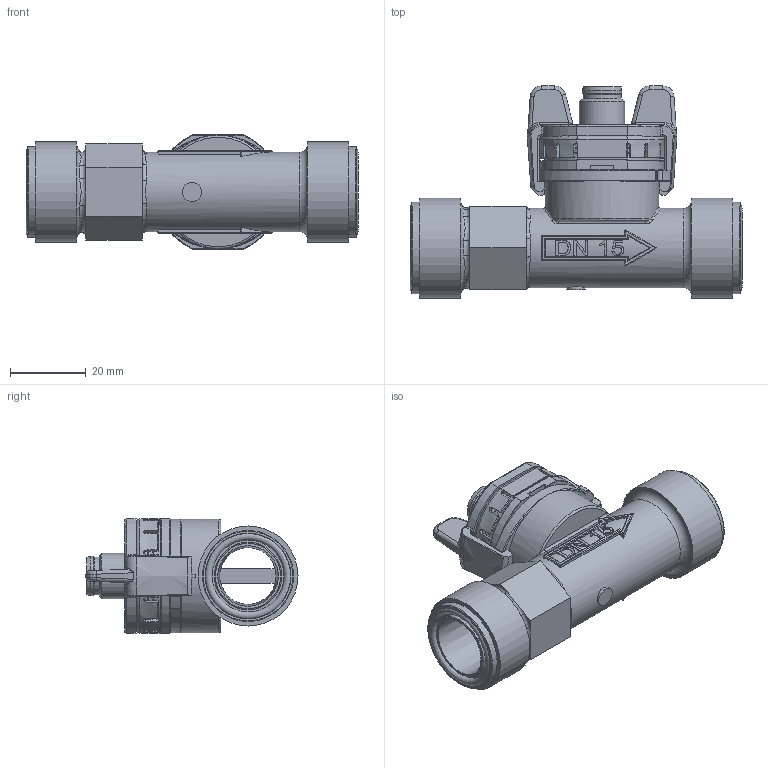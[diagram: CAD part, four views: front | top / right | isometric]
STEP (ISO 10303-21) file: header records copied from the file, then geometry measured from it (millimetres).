
FILE_DESCRIPTION(/* description */ (''),/* implementation_level */ '2;1');
FILE_NAME(/* name */ '2x0_x15x4xK.stp',/* time_stamp */ '2015-04-03T15:33:07+02:00',/* author */ (''),/* organization */ (''),/* preprocessor_version */ 'ST-DEVELOPER v15',/* originating_system */ 'SIEMENS PLM Software NX 9.0',/* authorisation */ '');
FILE_SCHEMA (('AUTOMOTIVE_DESIGN { 1 0 10303 214 3 1 1 1 }'));
Length unit declared in the file: millimetre
Products named in the file (1): Z002053C663D8f1e
Bounding box: 87.78 x 56.07 x 30.2 mm (x, y, z)
Volume: 40082.8 mm3; surface area: 25035.2 mm2
Topology: 7 solids, 7 shells, 1021 faces, 2675 edges, 1679 vertices
Faces by surface type: plane 375, cylinder 250, extrusion 108, torus 92, bspline 90, cone 87, sphere 18, revolution 1
Full cylindrical faces by diameter (mm): 1 x3, 5 x1, 5.76 x2, 7.98 x4, 8.15 x2, 8.98 x1, 9.25 x1, 10 x1, 10.4 x1, 12 x1, 15 x1, 15.17 x1, 15.4 x1, 17.4 x2, 21 x1, 22.5 x2, 24.1 x2, 26.441 x2, 30 x1
Entity records: 45132 total; most frequent: CARTESIAN_POINT 14298, ORIENTED_EDGE 5056, DIRECTION 4603, EDGE_CURVE 2528, AXIS2_PLACEMENT_3D 1721, VERTEX_POINT 1639, VECTOR 1160, EDGE_LOOP 1159
